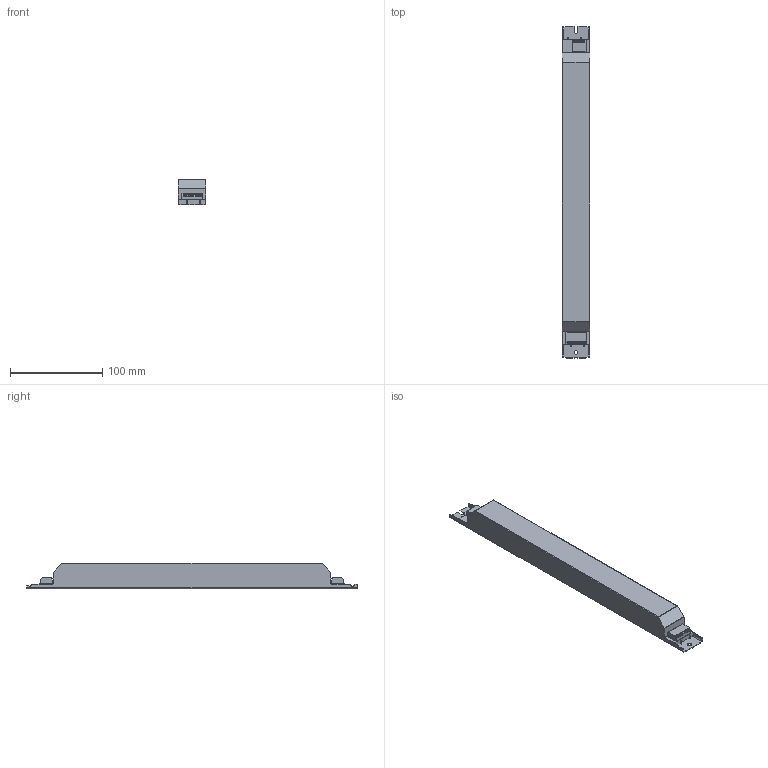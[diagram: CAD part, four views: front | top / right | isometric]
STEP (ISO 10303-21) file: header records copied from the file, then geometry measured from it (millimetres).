
FILE_DESCRIPTION((''),'2;1');
FILE_NAME('15011494Z_360X30X28_PRE-IND-6-4','2017-11-09T',('juergen.hrach'),(''),'PRO/ENGINEER BY PARAMETRIC TECHNOLOGY CORPORATION, 2015200','PRO/ENGINEER BY PARAMETRIC TECHNOLOGY CORPORATION, 2015200','');
FILE_SCHEMA(('AUTOMOTIVE_DESIGN { 1 0 10303 214 1 1 1 1 }'));
Length unit declared in the file: millimetre
Products named in the file (1): 15011494Z_360X30X28_PRE-IND-6-4
Bounding box: 30 x 360 x 28 mm (x, y, z)
Volume: 257717.6 mm3; surface area: 40485.6 mm2
Topology: 1 solids, 1 shells, 168 faces, 483 edges, 320 vertices
Faces by surface type: plane 87, cylinder 81
Entity records: 7609 total; most frequent: CARTESIAN_POINT 1244, ORIENTED_EDGE 966, DIRECTION 905, PRESENTATION_STYLE_ASSIGNMENT 490, STYLED_ITEM 484, CURVE_STYLE 483, EDGE_CURVE 483, VERTEX_POINT 320
